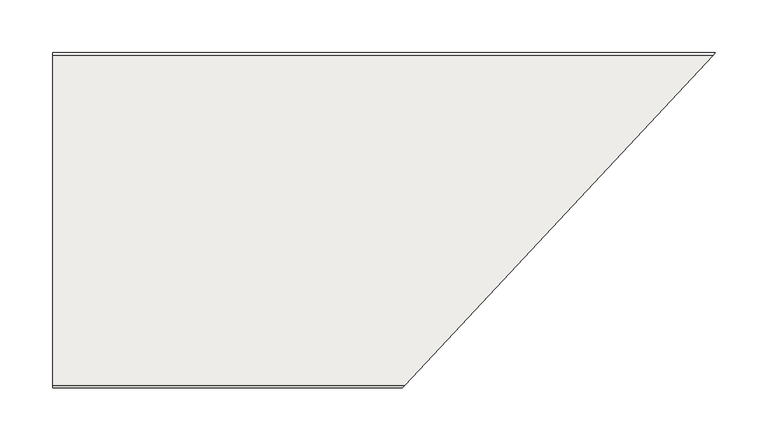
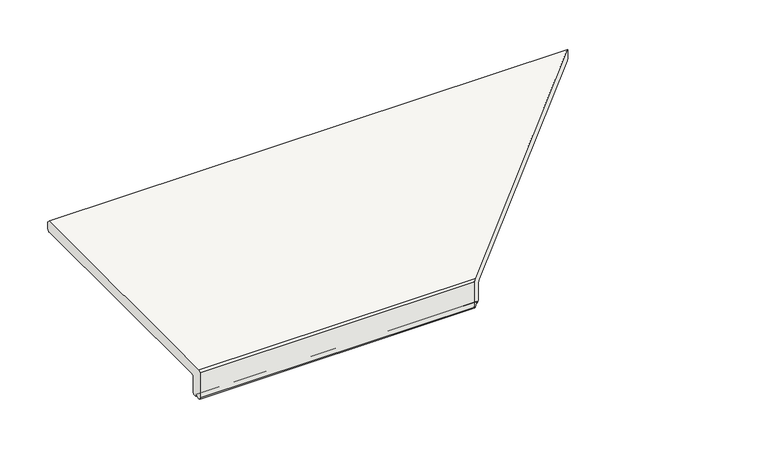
"""IFC4 building model written with IfcOpenShell, lengths in millimetres: slab geometry, ROSA GRES_L62 (corte-profundidad) : Pieza L62_Mistery_Grey_Anti-Slip."""

from ifc_helpers import new_model, si_unit, frame, origin, place, context, project, spatial, polyline, circle_curve, ellipse_curve, source, transform, mapped, element, save
from ifc_brep_helpers import plane_surface, cylinder_surface, revolved_surface, advanced_brep


def slab_73b0a854(model_context):
    return source(origin(), model_context, "Body", "AdvancedBrep", [
        advanced_brep(
        [(0.0, 11.8865989, -24.0), (0.0, 9.4124925, -24.0), (0.0, 9.4124925, -23.0), (0.0, 5.422949, -23.0), (0.0, 2.5, -23.0), (0.0, 0.0, -20.5), (0.0, 0.0, 11.5), (0.0, 2.5, 14.0), (0.0, 314.5, 14.0), (0.0, 317.0, 11.5), (0.0, 317.0, 2.5268156), (0.0, 314.5178771, 0.0446927), (0.0, 16.4230659, 0.0446927), (0.0, 13.8100559, -2.5683173), (0.0, 13.8100559, -22.076543), (341.0108929, 11.8865989, -24.0), (338.7037514, 9.4124925, -24.0), (338.7037514, 9.4124925, -23.0), (334.9834419, 5.422949, -23.0), (332.2577479, 2.5, -23.0), (329.9264602, 0.0, -20.5), (329.9264602, 0.0, 11.5), (332.2577479, 2.5, 14.0), (623.2024547, 314.5, 14.0), (625.5337425, 317.0, 11.5), (625.5337425, 317.0, 2.5268156), (623.2191254, 314.5178771, 0.0446927), (345.2412169, 16.4230659, 0.0446927), (342.8045456, 13.8100559, -2.5683173), (342.8045456, 13.8100559, -22.076543)],
        [
            (0, 1),
            (1, 2),
            (2, 3, circle_curve(frame((0.0, 7.4177208, -23.0), z_axis=(1.0, 0.0, 0.0), x_axis=(0.0, 1.0, 0.0)), 1.9947717)),
            (3, 4),
            (4, 5, circle_curve(frame((0.0, 2.5, -20.5), z_axis=(-1.0, 0.0, 0.0), x_axis=(0.0, 1.0, 0.0)), 2.5)),
            (5, 6),
            (6, 7),
            (7, 8),
            (8, 9),
            (9, 10),
            (10, 11, circle_curve(frame((0.0, 314.5178771, 2.5268156), z_axis=(-1.0, 0.0, 0.0), x_axis=(0.0, 1.0, 0.0)), 2.4821229)),
            (11, 12),
            (12, 13, circle_curve(frame((0.0, 16.4230659, -2.5683173), z_axis=(1.0, 0.0, 0.0), x_axis=(0.0, 1.0, 0.0)), 2.6130101)),
            (13, 14),
            (14, 0, circle_curve(frame((0.0, 11.8865989, -22.076543), z_axis=(-1.0, 0.0, 0.0), x_axis=(0.0, 1.0, 0.0)), 1.923457)),
            (0, 15),
            (15, 16),
            (16, 1),
            (2, 17),
            (17, 18, ellipse_curve(frame((336.8435967, 7.4177208, -23.0), z_axis=(0.7313537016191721, -0.6819983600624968, 0.0), x_axis=(0.6819983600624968, 0.7313537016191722, 0.0)), 2.7275062, 1.9947717)),
            (18, 3),
            (18, 19),
            (19, 4),
            (19, 20, ellipse_curve(frame((332.2577479, 2.5, -20.5), z_axis=(-0.7313537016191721, 0.6819983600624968, 0.0), x_axis=(-0.6819983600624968, -0.7313537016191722, 0.0)), 3.4183187, 2.5)),
            (20, 5),
            (20, 21),
            (21, 6),
            (7, 22),
            (22, 23),
            (23, 8),
            (9, 24),
            (24, 25),
            (25, 10),
            (25, 26, ellipse_curve(frame((623.2191254, 314.5178771, 2.5268156), z_axis=(-0.7313537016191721, 0.6819983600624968, 0.0), x_axis=(-0.6819983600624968, -0.7313537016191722, 0.0)), 3.3938748, 2.4821229)),
            (26, 11),
            (26, 27),
            (27, 12),
            (27, 28, ellipse_curve(frame((345.2412169, 16.4230659, -2.5683173), z_axis=(0.7313537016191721, -0.6819983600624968, 0.0), x_axis=(0.6819983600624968, 0.7313537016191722, 0.0)), 3.5728404, 2.6130101)),
            (28, 13),
            (28, 29),
            (29, 14),
            (29, 15, ellipse_curve(frame((341.0108929, 11.8865989, -22.076543), z_axis=(-0.7313537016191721, 0.6819983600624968, 0.0), x_axis=(-0.6819983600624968, -0.7313537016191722, 0.0)), 2.6299955, 1.923457)),
            (21, 22),
            (23, 24),
            (16, 17),
        ],
        [
            plane_surface(frame((0.0, 0.0, 0.0), z_axis=(-1.0, 0.0, 0.0), x_axis=(0.0, 0.0, 1.0))),
            plane_surface(frame((0.0, 11.8865989, -24.0), z_axis=(0.0, 0.0, -1.0), x_axis=(1.0, 0.0, 0.0))),
            revolved_surface(polyline([(338.7037514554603, 9.412492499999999, -23.0), (0.0, 9.412492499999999, -23.0)]), (0.0, 7.4177208, -23.0), (1.0, 0.0, 0.0)),
            plane_surface(frame((0.0, 5.422949, -23.0), z_axis=(0.0, 0.0, -1.0), x_axis=(1.0, 0.0, 0.0))),
            cylinder_surface(frame((0.0, 2.5, -20.5), z_axis=(-1.0, 0.0, 0.0), x_axis=(0.0, 1.0, 0.0)), 2.5),
            plane_surface(frame((0.0, 0.0, -20.5), z_axis=(0.0, -1.0, 0.0), x_axis=(1.0, 0.0, 0.0))),
            plane_surface(frame((0.0, 2.5, 14.0), z_axis=(0.0, 0.0, 1.0), x_axis=(1.0, 0.0, 0.0))),
            plane_surface(frame((0.0, 317.0, 11.5), z_axis=(0.0, 1.0, 0.0), x_axis=(1.0, 0.0, 0.0))),
            cylinder_surface(frame((0.0, 314.5178771, 2.5268156), z_axis=(-1.0, 0.0, 0.0), x_axis=(0.0, 1.0, 0.0)), 2.4821229),
            plane_surface(frame((0.0, 314.5178771, 0.0446927), z_axis=(0.0, 0.0, -1.0), x_axis=(1.0, 0.0, 0.0))),
            revolved_surface(polyline([(347.677888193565, 19.036076, -2.5683173), (0.0, 19.036076, -2.5683173)]), (0.0, 16.4230659, -2.5683173), (1.0, 0.0, 0.0)),
            plane_surface(frame((0.0, 13.8100559, -2.5683173), z_axis=(0.0, 1.0, 0.0), x_axis=(1.0, 0.0, 0.0))),
            cylinder_surface(frame((0.0, 11.8865989, -22.076543), z_axis=(-1.0, 0.0, 0.0), x_axis=(0.0, 1.0, 0.0)), 1.923457),
            plane_surface(frame((0.0, 0.0, 11.5), z_axis=(0.0, -0.7071067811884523, 0.7071067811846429), x_axis=(1.0, 0.0, 0.0))),
            plane_surface(frame((0.0, 314.5, 14.0), z_axis=(0.0, 0.7071067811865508, 0.7071067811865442), x_axis=(1.0, 0.0, 0.0))),
            plane_surface(frame((0.0, 9.4124925, -24.0), z_axis=(0.0, -1.0, 0.0), x_axis=(1.0, 0.0, 0.0))),
            plane_surface(frame((626.0, 317.5, 86.9871832), z_axis=(0.7313537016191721, -0.6819983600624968, 0.0), x_axis=(0.0, 0.0, -1.0))),
        ],
        [
            (0, [[1, 2, 3, 4, 5, 6, 7, 8, 9, 10, 11, 12, 13, 14, 15]]),
            (1, [[-1, 16, 17, 18]]),
            (2, [[-3, 19, 20, 21]]),
            (3, [[-4, -21, 22, 23]]),
            (4, [[-5, -23, 24, 25]]),
            (5, [[-6, -25, 26, 27]]),
            (6, [[-8, 28, 29, 30]]),
            (7, [[-10, 31, 32, 33]]),
            (8, [[-11, -33, 34, 35]]),
            (9, [[-12, -35, 36, 37]]),
            (10, [[-13, -37, 38, 39]]),
            (11, [[-14, -39, 40, 41]]),
            (12, [[-15, -41, 42, -16]]),
            (13, [[-7, -27, 43, -28]]),
            (14, [[-9, -30, 44, -31]]),
            (15, [[-2, -18, 45, -19]]),
            (16, [[-17, -42, -40, -38, -36, -34, -32, -44, -29, -43, -26, -24, -22, -20, -45]]),
        ],
    ),
    ])


if __name__ == "__main__":
    model = new_model("IFC4")
    model_context = context("Model", 3, world=origin())
    ifc_project = project(units=[si_unit("LENGTHUNIT", "METRE", prefix="MILLI")], contexts=[model_context])
    site = spatial("IfcSite", under=ifc_project)
    building = spatial("IfcBuilding", under=site)
    placement = place(None, origin())
    slab_shape = slab_73b0a854(model_context)
    element("IfcSlab", 1, ObjectType="ROSA GRES_L62 (corte-profundidad) : Pieza L62_Mistery_Grey_Anti-Slip", at=placement, inside=building, context=model_context, shape_type="MappedRepresentation", body=[
        mapped(slab_shape, transform((0.0, 0.0, 0.0), x_axis=(1.0, 0.0, 0.0), y_axis=(0.0, 1.0, 0.0), z_axis=(0.0, 0.0, 1.0))),
    ])
    save(model, "model.ifc")
